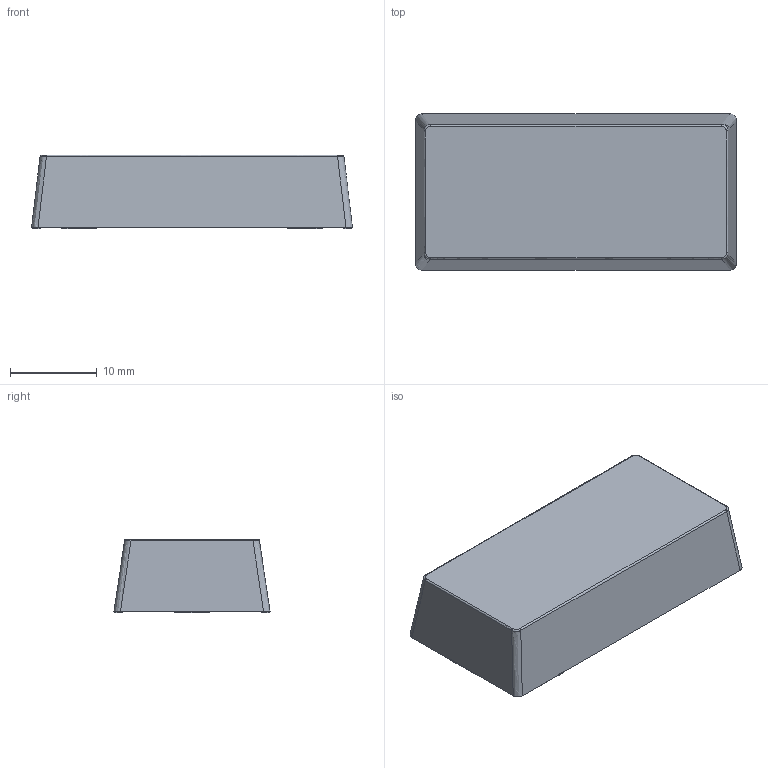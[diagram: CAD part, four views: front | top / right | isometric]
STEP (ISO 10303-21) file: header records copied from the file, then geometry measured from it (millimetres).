
FILE_DESCRIPTION(('FreeCAD Model'),'2;1');
FILE_NAME('Open CASCADE Shape Model','2023-07-23T15:24:01',(''),(''), 'Open CASCADE STEP processor 7.6','FreeCAD','Unknown');
FILE_SCHEMA(('AUTOMOTIVE_DESIGN { 1 0 10303 214 1 1 1 1 }'));
Length unit declared in the file: millimetre
Products named in the file (3): beschr__Kappe_doppelt; beschr. Kappe Abdeckung; beschr. Kappe Unterteil
Assembly tree (2 placements, depth 2):
  beschr__Kappe_doppelt
    beschr. Kappe Abdeckung
    beschr. Kappe Unterteil
Bounding box: 37 x 18 x 8.45 mm (x, y, z)
Volume: 2681.2 mm3; surface area: 5205.4 mm2
Topology: 2 solids, 2 shells, 163 faces, 389 edges, 242 vertices
Faces by surface type: plane 124, bspline 36, cylinder 3
Full cylindrical faces by diameter (mm): 6.8 x3
Entity records: 6658 total; most frequent: CARTESIAN_POINT 3165, ORIENTED_EDGE 778, DIRECTION 583, EDGE_CURVE 389, LINE 295, VECTOR 295, VERTEX_POINT 242, FACE_BOUND 175
